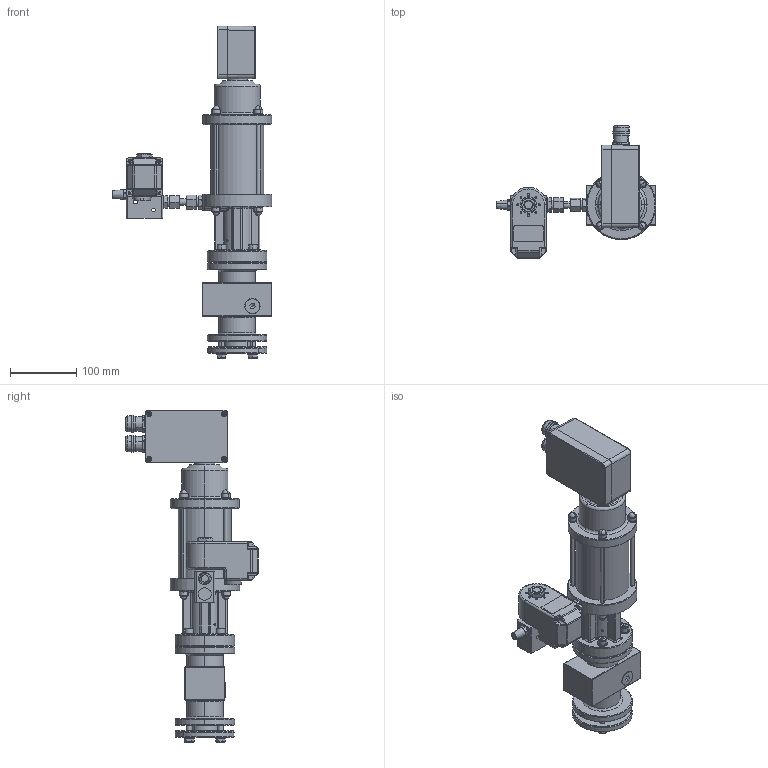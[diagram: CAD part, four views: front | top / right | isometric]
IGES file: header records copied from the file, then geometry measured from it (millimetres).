
Global section: file name: No Iges File Name specified; native system: AutoDesk Inventor R12.0; preprocessor: AutoDesk Inventor Iges Exporter R12.0; date: 20100504.095709; units: millimetre
Bounding box: 241.49 x 200.68 x 501.4 mm (x, y, z)
Volume: 2873166.6 mm3; surface area: 284806.3 mm2
Topology: 1 solids, 1 shells, 1713 faces, 4375 edges, 2692 vertices
Faces by surface type: plane 718, cylinder 318, cone 216, bspline 214, revolution 151, torus 70, sphere 26
